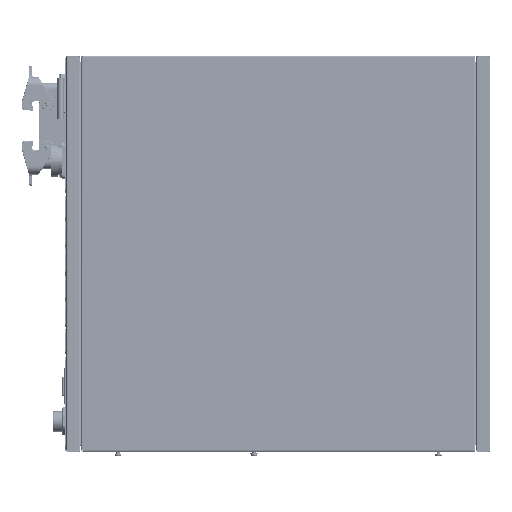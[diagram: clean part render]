
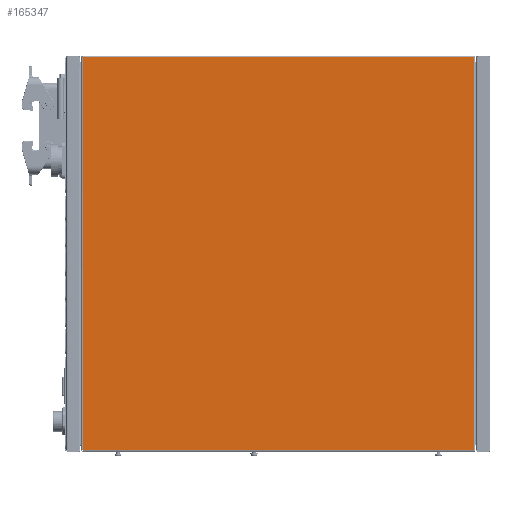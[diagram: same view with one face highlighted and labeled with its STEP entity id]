
A CAD part, top view. The second image highlights one B-rep face of the part: STEP entity #165347.
In plain terms, the highlighted planar face has unit normal (0, 0, 1).
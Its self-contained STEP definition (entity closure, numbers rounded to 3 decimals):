
#9551 = VERTEX_POINT ( 'NONE', #168677 ) ;
#30152 = VERTEX_POINT ( 'NONE', #389520 ) ;
#33363 = CARTESIAN_POINT ( 'NONE',  ( -222.765, -8.403, 553.641 ) ) ;
#44539 = CARTESIAN_POINT ( 'NONE',  ( -221.065, 418.197, 553.641 ) ) ;
#49095 = EDGE_CURVE ( 'NONE', #152639, #404089, #588050, .T. ) ;
#74388 = LINE ( 'NONE', #379080, #121064 ) ;
#111396 = DIRECTION ( 'NONE',  ( 0., -1., 0. ) ) ;
#121064 = VECTOR ( 'NONE', #111396, 1000. ) ;
#152639 = VERTEX_POINT ( 'NONE', #330472 ) ;
#162509 = EDGE_CURVE ( 'NONE', #404089, #30152, #74388, .T. ) ;
#165347 = ADVANCED_FACE ( 'NONE', ( #324757 ), #577164, .F. ) ;
#168677 = CARTESIAN_POINT ( 'NONE',  ( 203.535, -8.403, 553.641 ) ) ;
#221529 = VECTOR ( 'NONE', #521727, 1000. ) ;
#252560 = ORIENTED_EDGE ( 'NONE', *, *, #162509, .T. ) ;
#285509 = LINE ( 'NONE', #33363, #221529 ) ;
#322189 = EDGE_CURVE ( 'NONE', #30152, #9551, #285509, .T. ) ;
#324104 = DIRECTION ( 'NONE',  ( 0., 1., 0. ) ) ;
#324757 = FACE_OUTER_BOUND ( 'NONE', #603343, .T. ) ;
#330472 = CARTESIAN_POINT ( 'NONE',  ( 203.535, 418.197, 553.641 ) ) ;
#333514 = VECTOR ( 'NONE', #643746, 1000. ) ;
#363719 = LINE ( 'NONE', #622443, #572593 ) ;
#371194 = ORIENTED_EDGE ( 'NONE', *, *, #49095, .T. ) ;
#379080 = CARTESIAN_POINT ( 'NONE',  ( -221.065, 418.197, 553.641 ) ) ;
#389520 = CARTESIAN_POINT ( 'NONE',  ( -221.065, -8.403, 553.641 ) ) ;
#404089 = VERTEX_POINT ( 'NONE', #44539 ) ;
#416718 = DIRECTION ( 'NONE',  ( -1., 0., 0. ) ) ;
#465907 = CARTESIAN_POINT ( 'NONE',  ( -8.765, 204.897, 553.641 ) ) ;
#510836 = AXIS2_PLACEMENT_3D ( 'NONE', #465907, #570719, #416718 ) ;
#521727 = DIRECTION ( 'NONE',  ( 1., 0., 0. ) ) ;
#532126 = ORIENTED_EDGE ( 'NONE', *, *, #549440, .T. ) ;
#542111 = CARTESIAN_POINT ( 'NONE',  ( 205.235, 418.197, 553.641 ) ) ;
#549440 = EDGE_CURVE ( 'NONE', #9551, #152639, #363719, .T. ) ;
#570719 = DIRECTION ( 'NONE',  ( 0., 0., -1. ) ) ;
#572593 = VECTOR ( 'NONE', #324104, 1000. ) ;
#577164 = PLANE ( 'NONE',  #510836 ) ;
#585813 = ORIENTED_EDGE ( 'NONE', *, *, #322189, .T. ) ;
#588050 = LINE ( 'NONE', #542111, #333514 ) ;
#603343 = EDGE_LOOP ( 'NONE', ( #252560, #585813, #532126, #371194 ) ) ;
#622443 = CARTESIAN_POINT ( 'NONE',  ( 203.535, -8.403, 553.641 ) ) ;
#643746 = DIRECTION ( 'NONE',  ( -1., 0., 0. ) ) ;
